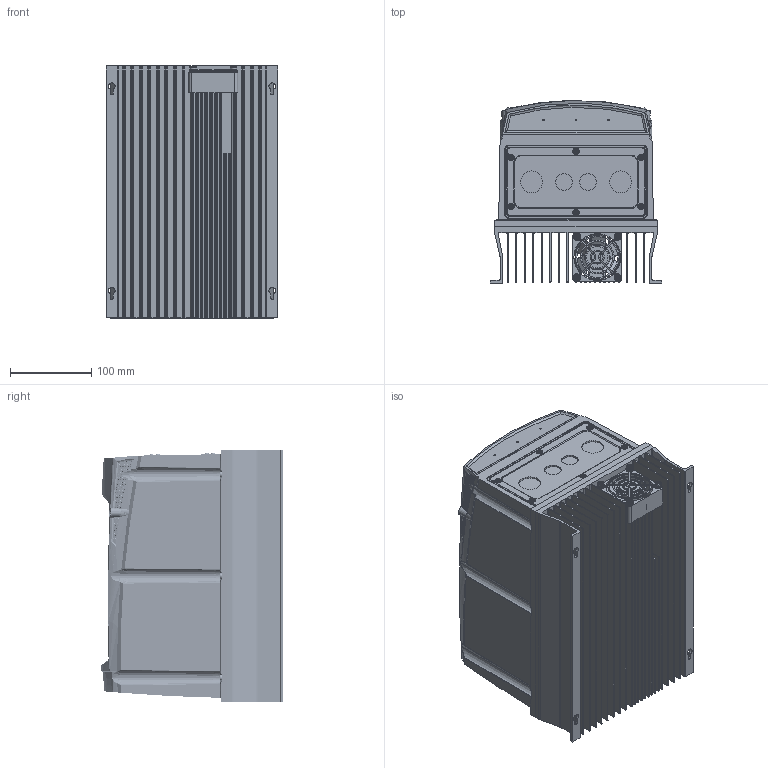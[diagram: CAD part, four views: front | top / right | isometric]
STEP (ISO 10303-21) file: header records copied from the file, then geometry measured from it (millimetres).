
FILE_DESCRIPTION (( 'STEP AP203' ), '1' );
FILE_NAME ('P2.IP66.Gen2.SIZE3.OLED.NonSwitched-Closed (ENVELOPE) (4-Hole).STEP', '2022-08-04T08:04:08', ( '' ), ( '' ), 'SwSTEP 2.0', 'SolidWorks 2022', '' );
FILE_SCHEMA (( 'CONFIG_CONTROL_DESIGN' ));
Products named in the file (1): P2.IP66.Gen2.SIZE3.OLED.NonSwitched-Closed (ENVELOPE) (4-Hole)
Bounding box: 210.5 x 225.16 x 310.09 mm (x, y, z)
Volume: 9134520.1 mm3; surface area: 1148316.9 mm2
Topology: 1 solids, 26 shells, 3405 faces, 9965 edges, 6570 vertices
Faces by surface type: cylinder 1041, plane 878, sphere 805, bspline 402, cone 178, torus 101
Entity records: 141277 total; most frequent: CARTESIAN_POINT 63234, ORIENTED_EDGE 17396, DIRECTION 14871, EDGE_CURVE 8698, AXIS2_PLACEMENT_3D 6226, VERTEX_POINT 5756, EDGE_LOOP 3912, FACE_OUTER_BOUND 3392
